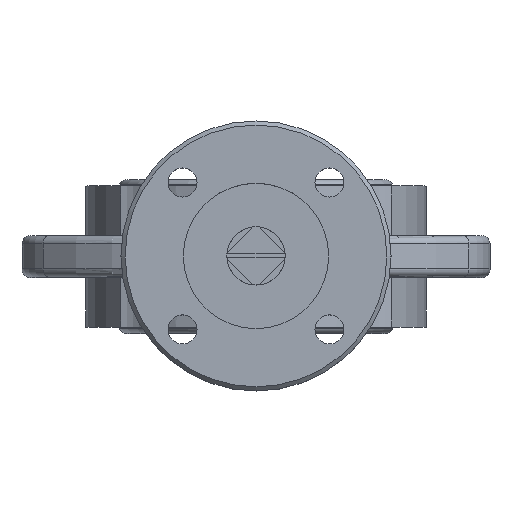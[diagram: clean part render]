
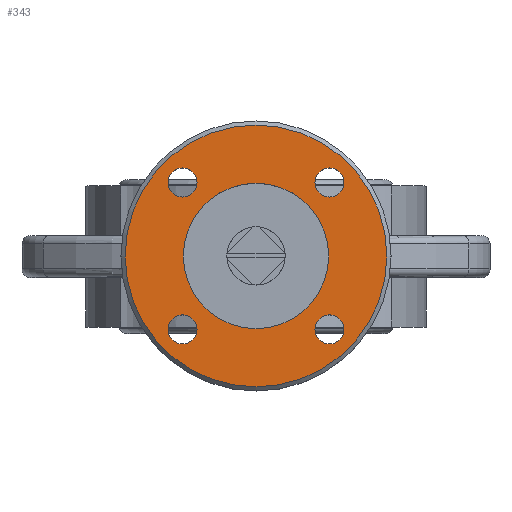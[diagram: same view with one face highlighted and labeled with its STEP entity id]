
A CAD part, top view. The second image highlights one B-rep face of the part: STEP entity #343.
In plain terms, the highlighted planar face has unit normal (0, 0, 1).
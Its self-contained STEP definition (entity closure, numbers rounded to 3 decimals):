
#343 = ADVANCED_FACE( '', ( #809, #810, #811, #812, #813, #814 ), #815, .T. );
#809 = FACE_BOUND( '', #1824, .T. );
#810 = FACE_OUTER_BOUND( '', #1825, .T. );
#811 = FACE_BOUND( '', #1826, .T. );
#812 = FACE_BOUND( '', #1827, .T. );
#813 = FACE_BOUND( '', #1828, .T. );
#814 = FACE_BOUND( '', #1829, .T. );
#815 = PLANE( '', #1830 );
#1824 = EDGE_LOOP( '', ( #3221 ) );
#1825 = EDGE_LOOP( '', ( #3222 ) );
#1826 = EDGE_LOOP( '', ( #3223 ) );
#1827 = EDGE_LOOP( '', ( #3224 ) );
#1828 = EDGE_LOOP( '', ( #3225 ) );
#1829 = EDGE_LOOP( '', ( #3226 ) );
#1830 = AXIS2_PLACEMENT_3D( '', #3227, #3228, #3229 );
#3221 = ORIENTED_EDGE( '', *, *, #4645, .T. );
#3222 = ORIENTED_EDGE( '', *, *, #4662, .T. );
#3223 = ORIENTED_EDGE( '', *, *, #4356, .T. );
#3224 = ORIENTED_EDGE( '', *, *, #4453, .T. );
#3225 = ORIENTED_EDGE( '', *, *, #4663, .T. );
#3226 = ORIENTED_EDGE( '', *, *, #4639, .T. );
#3227 = CARTESIAN_POINT( '', ( 0., -17.25, 98. ) );
#3228 = DIRECTION( '', ( 0., 0., 1. ) );
#3229 = DIRECTION( '', ( 1., 0., 0. ) );
#4356 = EDGE_CURVE( '', #5063, #5063, #5064, .T. );
#4453 = EDGE_CURVE( '', #5228, #5228, #5229, .T. );
#4639 = EDGE_CURVE( '', #5529, #5529, #5530, .T. );
#4645 = EDGE_CURVE( '', #5538, #5538, #5539, .T. );
#4662 = EDGE_CURVE( '', #5563, #5563, #5564, .T. );
#4663 = EDGE_CURVE( '', #5565, #5565, #5566, .T. );
#5063 = VERTEX_POINT( '', #6064 );
#5064 = CIRCLE( '', #6065, 3.5 );
#5228 = VERTEX_POINT( '', #6274 );
#5229 = CIRCLE( '', #6275, 3.5 );
#5529 = VERTEX_POINT( '', #6810 );
#5530 = CIRCLE( '', #6811, 3.5 );
#5538 = VERTEX_POINT( '', #6821 );
#5539 = CIRCLE( '', #6822, 17.5 );
#5563 = VERTEX_POINT( '', #6926 );
#5564 = CIRCLE( '', #6927, 31.5 );
#5565 = VERTEX_POINT( '', #6928 );
#5566 = CIRCLE( '', #6929, 3.5 );
#6064 = CARTESIAN_POINT( '', ( -21.178, -34.928, 98. ) );
#6065 = AXIS2_PLACEMENT_3D( '', #7854, #7855, #7856 );
#6274 = CARTESIAN_POINT( '', ( 14.178, -34.928, 98. ) );
#6275 = AXIS2_PLACEMENT_3D( '', #8000, #8001, #8002 );
#6810 = CARTESIAN_POINT( '', ( -21.178, 0.428, 98. ) );
#6811 = AXIS2_PLACEMENT_3D( '', #8272, #8273, #8274 );
#6821 = CARTESIAN_POINT( '', ( -17.5, -17.25, 98. ) );
#6822 = AXIS2_PLACEMENT_3D( '', #8280, #8281, #8282 );
#6926 = CARTESIAN_POINT( '', ( 31.5, -17.25, 98. ) );
#6927 = AXIS2_PLACEMENT_3D( '', #8297, #8298, #8299 );
#6928 = CARTESIAN_POINT( '', ( 14.178, 0.428, 98. ) );
#6929 = AXIS2_PLACEMENT_3D( '', #8300, #8301, #8302 );
#7854 = CARTESIAN_POINT( '', ( -17.678, -34.928, 98. ) );
#7855 = DIRECTION( '', ( 0., 0., -1. ) );
#7856 = DIRECTION( '', ( -1., 0., 0. ) );
#8000 = CARTESIAN_POINT( '', ( 17.678, -34.928, 98. ) );
#8001 = DIRECTION( '', ( 0., 0., -1. ) );
#8002 = DIRECTION( '', ( -1., 0., 0. ) );
#8272 = CARTESIAN_POINT( '', ( -17.678, 0.428, 98. ) );
#8273 = DIRECTION( '', ( 0., 0., -1. ) );
#8274 = DIRECTION( '', ( -1., 0., 0. ) );
#8280 = CARTESIAN_POINT( '', ( 0., -17.25, 98. ) );
#8281 = DIRECTION( '', ( 0., 0., -1. ) );
#8282 = DIRECTION( '', ( -1., 0., 0. ) );
#8297 = CARTESIAN_POINT( '', ( 0., -17.25, 98. ) );
#8298 = DIRECTION( '', ( 0., 0., 1. ) );
#8299 = DIRECTION( '', ( 1., 0., 0. ) );
#8300 = CARTESIAN_POINT( '', ( 17.678, 0.428, 98. ) );
#8301 = DIRECTION( '', ( 0., 0., -1. ) );
#8302 = DIRECTION( '', ( -1., 0., 0. ) );
